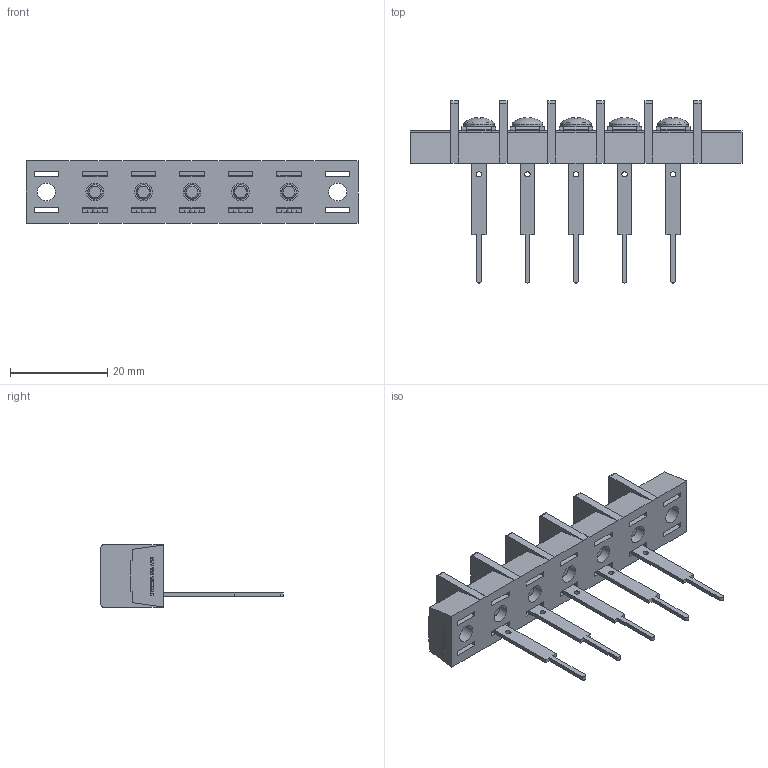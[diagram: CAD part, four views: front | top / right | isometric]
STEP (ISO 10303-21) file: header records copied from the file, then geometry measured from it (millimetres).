
FILE_DESCRIPTION(/* description */ ('Alibre Inc.'),/* implementation_level */ '2;1');
FILE_NAME(/* name */ 'export0',/* time_stamp */ '2015-10-22T20:25:53+09:00',/* author */ (''),/* organization */ (''),/* preprocessor_version */ 'ST-DEVELOPER v14',/* originating_system */ 'Alibre',/* authorisation */ '');
FILE_SCHEMA (('CONFIG_CONTROL_DESIGN'));
Length unit declared in the file: centimetre
Products named in the file (1): ID_1
Bounding box: 68.4 x 37.5 x 12.8 mm (x, y, z)
Volume: 6045.2 mm3; surface area: 7437.6 mm2
Topology: 1 solids, 86 shells, 1842 faces, 4757 edges, 3149 vertices
Faces by surface type: plane 1377, bspline 364, cylinder 61, cone 25, torus 10, sphere 5
Full cylindrical faces by diameter (mm): 1.1 x5, 3 x10, 3.7 x7, 4.6 x7, 6.3 x5
Entity records: 53568 total; most frequent: CARTESIAN_POINT 12952, ORIENTED_EDGE 9392, DIRECTION 5591, EDGE_CURVE 4696, VECTOR 3629, LINE 3629, VERTEX_POINT 3137, EDGE_LOOP 2045
